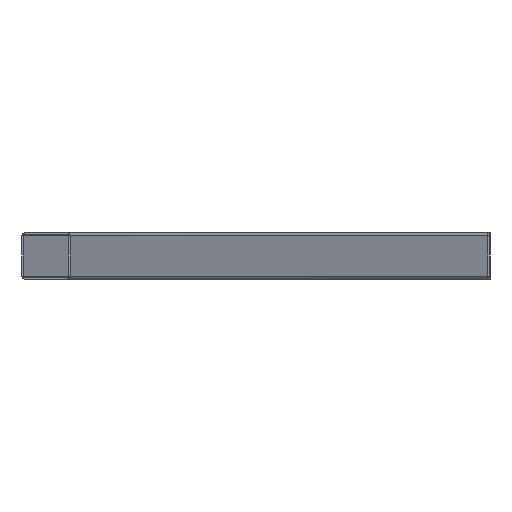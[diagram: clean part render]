
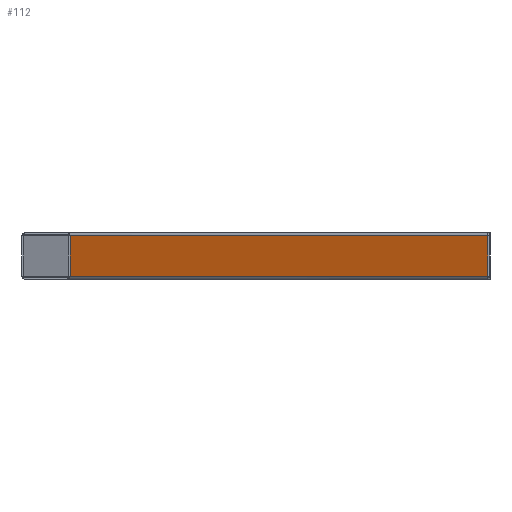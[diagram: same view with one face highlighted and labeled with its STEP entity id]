
A CAD part, front view. The second image highlights one B-rep face of the part: STEP entity #112.
In plain terms, the highlighted planar face has unit normal (0.956, -0.292, 0).
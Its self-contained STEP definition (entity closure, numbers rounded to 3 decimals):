
#84=FACE_OUTER_BOUND('',#162,.T.);
#112=ADVANCED_FACE('',(#84),#132,.F.);
#132=PLANE('',#592);
#162=EDGE_LOOP('',(#290,#291,#292,#293));
#290=ORIENTED_EDGE('',*,*,#399,.F.);
#291=ORIENTED_EDGE('',*,*,#428,.T.);
#292=ORIENTED_EDGE('',*,*,#415,.F.);
#293=ORIENTED_EDGE('',*,*,#427,.T.);
#350=VERTEX_POINT('',#776);
#352=VERTEX_POINT('',#779);
#366=VERTEX_POINT('',#809);
#368=VERTEX_POINT('',#812);
#399=EDGE_CURVE('',#350,#352,#466,.T.);
#415=EDGE_CURVE('',#366,#368,#474,.T.);
#427=EDGE_CURVE('',#366,#352,#483,.T.);
#428=EDGE_CURVE('',#350,#368,#484,.T.);
#466=LINE('',#778,#512);
#474=LINE('',#811,#520);
#483=LINE('',#833,#529);
#484=LINE('',#835,#530);
#512=VECTOR('',#624,1.);
#520=VECTOR('',#650,1.);
#529=VECTOR('',#673,1.);
#530=VECTOR('',#676,1.);
#592=AXIS2_PLACEMENT_3D('',#856,#708,#709);
#624=DIRECTION('',(0.,0.,1.));
#650=DIRECTION('',(0.,0.,-1.));
#673=DIRECTION('',(-0.292,-0.956,0.));
#676=DIRECTION('',(0.292,0.956,0.));
#708=DIRECTION('',(-0.956,0.292,0.));
#709=DIRECTION('',(-0.292,-0.956,0.));
#776=CARTESIAN_POINT('',(-814.636,335.,2116.));
#778=CARTESIAN_POINT('',(-814.636,335.,2210.));
#779=CARTESIAN_POINT('',(-814.636,335.,2204.));
#809=CARTESIAN_POINT('',(92.965,3303.629,2204.));
#811=CARTESIAN_POINT('',(92.965,3303.629,2210.));
#812=CARTESIAN_POINT('',(92.965,3303.629,2116.));
#833=CARTESIAN_POINT('',(-295.659,2032.495,2204.));
#835=CARTESIAN_POINT('',(-295.659,2032.495,2116.));
#856=CARTESIAN_POINT('',(-295.659,2032.495,2210.));
